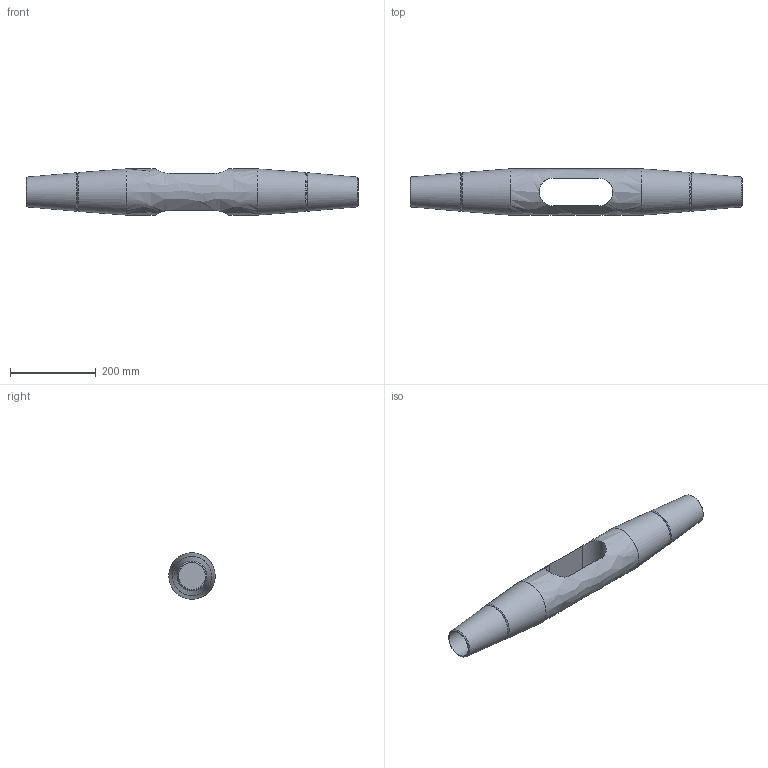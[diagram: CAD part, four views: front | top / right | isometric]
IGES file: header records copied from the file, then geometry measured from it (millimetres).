
Global section: file name: 520-060-KMF; native system: Autodesk Inventor 2016; preprocessor: unknown; author: Administrator; date: 20200702.132537; units: centimetre
Bounding box: 773 x 108 x 107.97 mm (x, y, z)
Volume: 4162001.8 mm3; surface area: 294463.6 mm2
Topology: 1 solids, 1 shells, 21 faces, 53 edges, 36 vertices
Faces by surface type: bspline 21
